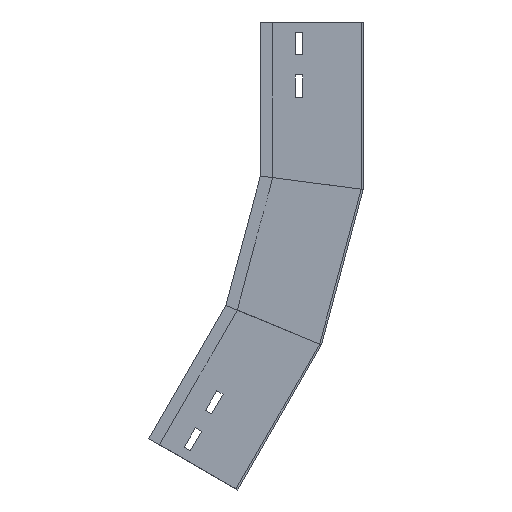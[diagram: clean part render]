
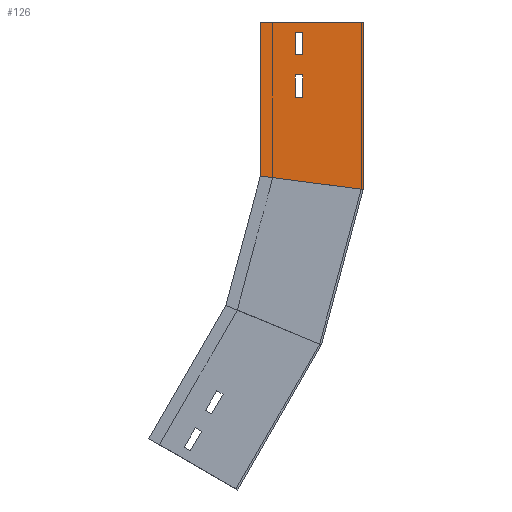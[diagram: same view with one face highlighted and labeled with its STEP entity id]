
A CAD part, left-side view. The second image highlights one B-rep face of the part: STEP entity #126.
In plain terms, the highlighted planar face has unit normal (-1, 0, 0) as drawn and (1, 0, 0) by its records, which use the part's own axes.
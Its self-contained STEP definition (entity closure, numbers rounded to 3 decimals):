
#72 = ORIENTED_EDGE ( 'NONE', *, *, #712, .F. ) ;
#78 = DIRECTION ( 'NONE',  ( 0., -0.924, -0.383 ) ) ;
#88 = LINE ( 'NONE', #539, #516 ) ;
#99 = DIRECTION ( 'NONE',  ( 0., -0.866, -0.5 ) ) ;
#116 = VECTOR ( 'NONE', #949, 1000. ) ;
#126 = ADVANCED_FACE ( 'NONE', ( #551, #1471, #676 ), #937, .F. ) ;
#138 = CARTESIAN_POINT ( 'NONE',  ( 0., 157.209, -398.356 ) ) ;
#141 = CARTESIAN_POINT ( 'NONE',  ( 0., 163.271, -394.856 ) ) ;
#154 = VECTOR ( 'NONE', #950, 1000. ) ;
#162 = LINE ( 'NONE', #488, #154 ) ;
#208 = ORIENTED_EDGE ( 'NONE', *, *, #1173, .T. ) ;
#218 = CARTESIAN_POINT ( 'NONE',  ( 0., 208.634, -405.426 ) ) ;
#227 = LINE ( 'NONE', #1238, #573 ) ;
#236 = VERTEX_POINT ( 'NONE', #141 ) ;
#237 = CARTESIAN_POINT ( 'NONE',  ( 0., 133.716, -275.665 ) ) ;
#260 = LINE ( 'NONE', #389, #1139 ) ;
#268 = CARTESIAN_POINT ( 'NONE',  ( 0., 153.436, -377.821 ) ) ;
#278 = CARTESIAN_POINT ( 'NONE',  ( 0., 174.271, -413.909 ) ) ;
#336 = LINE ( 'NONE', #911, #386 ) ;
#356 = DIRECTION ( 'NONE',  ( 0., 0., 1. ) ) ;
#363 = ORIENTED_EDGE ( 'NONE', *, *, #986, .T. ) ;
#386 = VECTOR ( 'NONE', #1357, 1000. ) ;
#389 = CARTESIAN_POINT ( 'NONE',  ( 0., 174.271, -413.909 ) ) ;
#402 = VERTEX_POINT ( 'NONE', #237 ) ;
#435 = DIRECTION ( 'NONE',  ( 0., 0.866, 0.5 ) ) ;
#440 = CARTESIAN_POINT ( 'NONE',  ( 0., 174.271, -413.909 ) ) ;
#448 = EDGE_CURVE ( 'NONE', #718, #610, #336, .T. ) ;
#451 = LINE ( 'NONE', #1034, #1337 ) ;
#467 = VERTEX_POINT ( 'NONE', #138 ) ;
#476 = DIRECTION ( 'NONE',  ( 0., -0.5, 0.866 ) ) ;
#485 = ORIENTED_EDGE ( 'NONE', *, *, #1256, .F. ) ;
#487 = CARTESIAN_POINT ( 'NONE',  ( 0., 40.531, -314.264 ) ) ;
#488 = CARTESIAN_POINT ( 'NONE',  ( 0., 147.374, -381.321 ) ) ;
#509 = VERTEX_POINT ( 'NONE', #771 ) ;
#516 = VECTOR ( 'NONE', #435, 1000. ) ;
#521 = ORIENTED_EDGE ( 'NONE', *, *, #1032, .F. ) ;
#523 = DIRECTION ( 'NONE',  ( 0., -0.5, 0.866 ) ) ;
#531 = LINE ( 'NONE', #1340, #708 ) ;
#532 = VERTEX_POINT ( 'NONE', #1093 ) ;
#539 = CARTESIAN_POINT ( 'NONE',  ( 0., 153.436, -377.821 ) ) ;
#545 = VECTOR ( 'NONE', #835, 1000. ) ;
#551 = FACE_BOUND ( 'NONE', #1253, .T. ) ;
#573 = VECTOR ( 'NONE', #681, 1000. ) ;
#578 = LINE ( 'NONE', #1490, #1383 ) ;
#610 = VERTEX_POINT ( 'NONE', #934 ) ;
#660 = ORIENTED_EDGE ( 'NONE', *, *, #826, .F. ) ;
#675 = ORIENTED_EDGE ( 'NONE', *, *, #1381, .T. ) ;
#676 = FACE_OUTER_BOUND ( 'NONE', #917, .T. ) ;
#681 = DIRECTION ( 'NONE',  ( 0., 0.866, 0.5 ) ) ;
#708 = VECTOR ( 'NONE', #1112, 1000. ) ;
#712 = EDGE_CURVE ( 'NONE', #1483, #718, #1411, .T. ) ;
#718 = VERTEX_POINT ( 'NONE', #1055 ) ;
#767 = ORIENTED_EDGE ( 'NONE', *, *, #448, .F. ) ;
#771 = CARTESIAN_POINT ( 'NONE',  ( 0., 122.031, -455.426 ) ) ;
#774 = CARTESIAN_POINT ( 'NONE',  ( 0., 59.416, -306.442 ) ) ;
#826 = EDGE_CURVE ( 'NONE', #1176, #236, #260, .T. ) ;
#835 = DIRECTION ( 'NONE',  ( 0., 0.866, 0.5 ) ) ;
#839 = VERTEX_POINT ( 'NONE', #1436 ) ;
#845 = LINE ( 'NONE', #278, #545 ) ;
#871 = CARTESIAN_POINT ( 'NONE',  ( 0., 147.374, -381.321 ) ) ;
#895 = EDGE_CURVE ( 'NONE', #402, #1442, #531, .T. ) ;
#909 = EDGE_CURVE ( 'NONE', #1300, #1483, #88, .T. ) ;
#911 = CARTESIAN_POINT ( 'NONE',  ( 0., 142.436, -358.769 ) ) ;
#917 = EDGE_LOOP ( 'NONE', ( #675, #363, #208, #1276 ) ) ;
#927 = DIRECTION ( 'NONE',  ( 0., 0.5, -0.866 ) ) ;
#934 = CARTESIAN_POINT ( 'NONE',  ( 0., 136.374, -362.269 ) ) ;
#937 = PLANE ( 'NONE',  #951 ) ;
#943 = VECTOR ( 'NONE', #476, 1000. ) ;
#949 = DIRECTION ( 'NONE',  ( 0., 0.5, -0.866 ) ) ;
#950 = DIRECTION ( 'NONE',  ( 0., 0.5, -0.866 ) ) ;
#951 = AXIS2_PLACEMENT_3D ( 'NONE', #1134, #1366, #356 ) ;
#986 = EDGE_CURVE ( 'NONE', #532, #509, #1040, .T. ) ;
#994 = ORIENTED_EDGE ( 'NONE', *, *, #909, .F. ) ;
#1032 = EDGE_CURVE ( 'NONE', #467, #839, #578, .T. ) ;
#1034 = CARTESIAN_POINT ( 'NONE',  ( 0., 163.271, -394.856 ) ) ;
#1040 = LINE ( 'NONE', #487, #116 ) ;
#1052 = EDGE_CURVE ( 'NONE', #839, #1176, #845, .T. ) ;
#1055 = CARTESIAN_POINT ( 'NONE',  ( 0., 142.436, -358.769 ) ) ;
#1093 = CARTESIAN_POINT ( 'NONE',  ( 0., 40.531, -314.264 ) ) ;
#1112 = DIRECTION ( 'NONE',  ( 0., 0.5, -0.866 ) ) ;
#1134 = CARTESIAN_POINT ( 'NONE',  ( 0., 40.531, -314.264 ) ) ;
#1139 = VECTOR ( 'NONE', #523, 1000. ) ;
#1148 = EDGE_CURVE ( 'NONE', #236, #467, #451, .T. ) ;
#1171 = EDGE_LOOP ( 'NONE', ( #72, #994, #485, #767 ) ) ;
#1173 = EDGE_CURVE ( 'NONE', #509, #1442, #227, .T. ) ;
#1176 = VERTEX_POINT ( 'NONE', #440 ) ;
#1205 = LINE ( 'NONE', #774, #1378 ) ;
#1211 = ORIENTED_EDGE ( 'NONE', *, *, #1148, .F. ) ;
#1238 = CARTESIAN_POINT ( 'NONE',  ( 0., 122.031, -455.426 ) ) ;
#1253 = EDGE_LOOP ( 'NONE', ( #660, #1351, #521, #1211 ) ) ;
#1256 = EDGE_CURVE ( 'NONE', #610, #1300, #162, .T. ) ;
#1276 = ORIENTED_EDGE ( 'NONE', *, *, #895, .F. ) ;
#1300 = VERTEX_POINT ( 'NONE', #871 ) ;
#1316 = CARTESIAN_POINT ( 'NONE',  ( 0., 153.436, -377.821 ) ) ;
#1337 = VECTOR ( 'NONE', #99, 1000. ) ;
#1340 = CARTESIAN_POINT ( 'NONE',  ( 0., 127.134, -264.264 ) ) ;
#1351 = ORIENTED_EDGE ( 'NONE', *, *, #1052, .F. ) ;
#1357 = DIRECTION ( 'NONE',  ( 0., -0.866, -0.5 ) ) ;
#1366 = DIRECTION ( 'NONE',  ( -1., 0., 0. ) ) ;
#1378 = VECTOR ( 'NONE', #78, 1000. ) ;
#1381 = EDGE_CURVE ( 'NONE', #402, #532, #1205, .T. ) ;
#1383 = VECTOR ( 'NONE', #927, 1000. ) ;
#1411 = LINE ( 'NONE', #268, #943 ) ;
#1436 = CARTESIAN_POINT ( 'NONE',  ( 0., 168.209, -417.409 ) ) ;
#1442 = VERTEX_POINT ( 'NONE', #218 ) ;
#1471 = FACE_BOUND ( 'NONE', #1171, .T. ) ;
#1483 = VERTEX_POINT ( 'NONE', #1316 ) ;
#1490 = CARTESIAN_POINT ( 'NONE',  ( 0., 168.209, -417.409 ) ) ;
